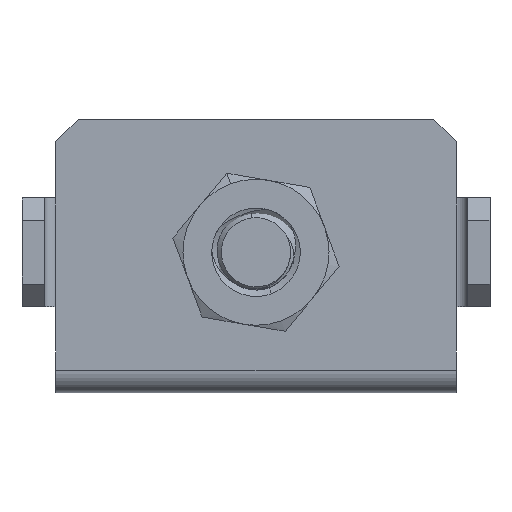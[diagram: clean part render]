
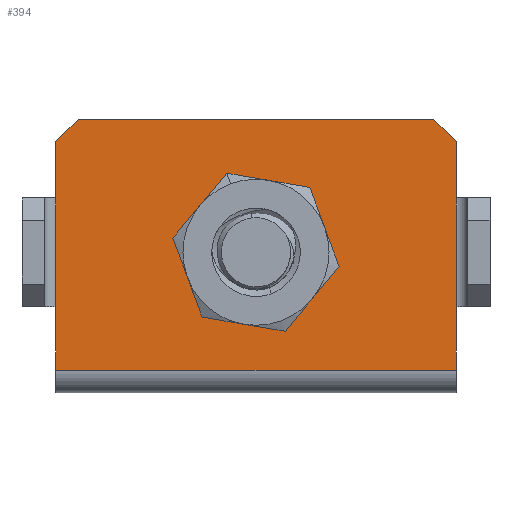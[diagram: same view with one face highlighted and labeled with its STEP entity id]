
A CAD part, front view. The second image highlights one B-rep face of the part: STEP entity #394.
In plain terms, the highlighted planar face has unit normal (0, -1, 0).
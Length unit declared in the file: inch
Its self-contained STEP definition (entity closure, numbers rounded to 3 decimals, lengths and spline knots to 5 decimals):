
#9 = DIRECTION ( 'NONE',  ( 0., 0., 1. ) ) ;
#66 = DIRECTION ( 'NONE',  ( -0.707, 0., -0.707 ) ) ;
#233 = LINE ( 'NONE', #5144, #2742 ) ;
#243 = LINE ( 'NONE', #6497, #7185 ) ;
#394 = ADVANCED_FACE ( 'NONE', ( #6324, #3738 ), #7206, .F. ) ;
#416 = ORIENTED_EDGE ( 'NONE', *, *, #1084, .T. ) ;
#475 = CARTESIAN_POINT ( 'NONE',  ( -0.13688, 0.0043, 0.24738 ) ) ;
#542 = VERTEX_POINT ( 'NONE', #1795 ) ;
#585 = CARTESIAN_POINT ( 'NONE',  ( -1.20688, 0.0043, 0.49452 ) ) ;
#635 = DIRECTION ( 'NONE',  ( 0., 1., 0. ) ) ;
#911 = ORIENTED_EDGE ( 'NONE', *, *, #3704, .T. ) ;
#998 = DIRECTION ( 'NONE',  ( 0., 0., 1. ) ) ;
#1084 = EDGE_CURVE ( 'NONE', #1767, #4985, #6960, .T. ) ;
#1606 = CARTESIAN_POINT ( 'NONE',  ( -0.13688, 0.0043, -0.21119 ) ) ;
#1609 = CARTESIAN_POINT ( 'NONE',  ( -1.14688, 0.0043, 0.55452 ) ) ;
#1636 = VERTEX_POINT ( 'NONE', #2726 ) ;
#1655 = CARTESIAN_POINT ( 'NONE',  ( -0.13688, 0.0043, 0.05452 ) ) ;
#1727 = VECTOR ( 'NONE', #6373, 39.37008 ) ;
#1767 = VERTEX_POINT ( 'NONE', #1609 ) ;
#1792 = ORIENTED_EDGE ( 'NONE', *, *, #2493, .F. ) ;
#1795 = CARTESIAN_POINT ( 'NONE',  ( -0.19688, 0.0043, 0.55452 ) ) ;
#1796 = AXIS2_PLACEMENT_3D ( 'NONE', #5465, #6684, #2536 ) ;
#1829 = EDGE_CURVE ( 'NONE', #1898, #1636, #3613, .T. ) ;
#1859 = CARTESIAN_POINT ( 'NONE',  ( -1.20688, 0.0043, -0.21119 ) ) ;
#1898 = VERTEX_POINT ( 'NONE', #3016 ) ;
#2125 = ORIENTED_EDGE ( 'NONE', *, *, #6482, .T. ) ;
#2319 = VECTOR ( 'NONE', #3455, 39.37008 ) ;
#2329 = CARTESIAN_POINT ( 'NONE',  ( -1.20688, 0.0043, 0.24738 ) ) ;
#2414 = ORIENTED_EDGE ( 'NONE', *, *, #7056, .F. ) ;
#2420 = CARTESIAN_POINT ( 'NONE',  ( -1.20688, 0.0043, 0.49452 ) ) ;
#2426 = VECTOR ( 'NONE', #66, 39.37008 ) ;
#2436 = CARTESIAN_POINT ( 'NONE',  ( -0.67188, 0.0043, 0.19952 ) ) ;
#2493 = EDGE_CURVE ( 'NONE', #4117, #6038, #3887, .T. ) ;
#2513 = DIRECTION ( 'NONE',  ( -1., 0., 0. ) ) ;
#2536 = DIRECTION ( 'NONE',  ( 0., 0., 1. ) ) ;
#2572 = LINE ( 'NONE', #1606, #5896 ) ;
#2698 = EDGE_CURVE ( 'NONE', #2859, #1898, #2572, .T. ) ;
#2726 = CARTESIAN_POINT ( 'NONE',  ( -0.13688, 0.0043, 0.49452 ) ) ;
#2742 = VECTOR ( 'NONE', #3411, 39.37008 ) ;
#2859 = VERTEX_POINT ( 'NONE', #1655 ) ;
#3016 = CARTESIAN_POINT ( 'NONE',  ( -0.13688, 0.0043, 0.34452 ) ) ;
#3055 = ORIENTED_EDGE ( 'NONE', *, *, #5094, .T. ) ;
#3265 = ORIENTED_EDGE ( 'NONE', *, *, #3303, .T. ) ;
#3284 = VECTOR ( 'NONE', #7296, 39.37008 ) ;
#3303 = EDGE_CURVE ( 'NONE', #542, #1767, #3870, .T. ) ;
#3348 = CARTESIAN_POINT ( 'NONE',  ( -0.67188, 0.0043, 0.32452 ) ) ;
#3411 = DIRECTION ( 'NONE',  ( 0., 0., 1. ) ) ;
#3412 = LINE ( 'NONE', #1859, #4427 ) ;
#3455 = DIRECTION ( 'NONE',  ( 0., 0., 1. ) ) ;
#3524 = EDGE_CURVE ( 'NONE', #3825, #4241, #3412, .T. ) ;
#3613 = LINE ( 'NONE', #475, #2319 ) ;
#3643 = LINE ( 'NONE', #4839, #3284 ) ;
#3701 = CARTESIAN_POINT ( 'NONE',  ( -0.13688, 0.0043, -0.11548 ) ) ;
#3704 = EDGE_CURVE ( 'NONE', #4387, #4882, #4693, .T. ) ;
#3738 = FACE_OUTER_BOUND ( 'NONE', #7468, .T. ) ;
#3825 = VERTEX_POINT ( 'NONE', #4436 ) ;
#3870 = LINE ( 'NONE', #5145, #1727 ) ;
#3887 = LINE ( 'NONE', #6023, #5818 ) ;
#3952 = EDGE_CURVE ( 'NONE', #4117, #2859, #243, .T. ) ;
#4117 = VERTEX_POINT ( 'NONE', #3701 ) ;
#4241 = VERTEX_POINT ( 'NONE', #6703 ) ;
#4321 = ORIENTED_EDGE ( 'NONE', *, *, #1829, .T. ) ;
#4387 = VERTEX_POINT ( 'NONE', #3348 ) ;
#4427 = VECTOR ( 'NONE', #6022, 39.37008 ) ;
#4436 = CARTESIAN_POINT ( 'NONE',  ( -1.20688, 0.0043, 0.05452 ) ) ;
#4658 = AXIS2_PLACEMENT_3D ( 'NONE', #2436, #635, #5968 ) ;
#4693 = CIRCLE ( 'NONE', #1796, 0.125 ) ;
#4713 = AXIS2_PLACEMENT_3D ( 'NONE', #7260, #5979, #7232 ) ;
#4839 = CARTESIAN_POINT ( 'NONE',  ( -0.19688, 0.0043, 0.55452 ) ) ;
#4882 = VERTEX_POINT ( 'NONE', #7619 ) ;
#4903 = LINE ( 'NONE', #2329, #5816 ) ;
#4985 = VERTEX_POINT ( 'NONE', #585 ) ;
#5094 = EDGE_CURVE ( 'NONE', #1636, #542, #3643, .T. ) ;
#5144 = CARTESIAN_POINT ( 'NONE',  ( -1.20688, 0.0043, 0.24738 ) ) ;
#5145 = CARTESIAN_POINT ( 'NONE',  ( -0.67188, 0.0043, 0.55452 ) ) ;
#5149 = ORIENTED_EDGE ( 'NONE', *, *, #3952, .T. ) ;
#5369 = ORIENTED_EDGE ( 'NONE', *, *, #3524, .F. ) ;
#5465 = CARTESIAN_POINT ( 'NONE',  ( -0.67188, 0.0043, 0.19952 ) ) ;
#5816 = VECTOR ( 'NONE', #5881, 39.37008 ) ;
#5818 = VECTOR ( 'NONE', #2513, 39.37008 ) ;
#5881 = DIRECTION ( 'NONE',  ( 0., 0., 1. ) ) ;
#5896 = VECTOR ( 'NONE', #998, 39.37008 ) ;
#5968 = DIRECTION ( 'NONE',  ( 0., 0., 1. ) ) ;
#5979 = DIRECTION ( 'NONE',  ( 0., 1., 0. ) ) ;
#6022 = DIRECTION ( 'NONE',  ( 0., 0., 1. ) ) ;
#6023 = CARTESIAN_POINT ( 'NONE',  ( -0.67188, 0.0043, -0.11548 ) ) ;
#6038 = VERTEX_POINT ( 'NONE', #6605 ) ;
#6324 = FACE_BOUND ( 'NONE', #7603, .T. ) ;
#6373 = DIRECTION ( 'NONE',  ( -1., 0., 0. ) ) ;
#6482 = EDGE_CURVE ( 'NONE', #4882, #4387, #7124, .T. ) ;
#6497 = CARTESIAN_POINT ( 'NONE',  ( -0.13688, 0.0043, 0.24738 ) ) ;
#6605 = CARTESIAN_POINT ( 'NONE',  ( -1.20688, 0.0043, -0.11548 ) ) ;
#6684 = DIRECTION ( 'NONE',  ( 0., 1., 0. ) ) ;
#6703 = CARTESIAN_POINT ( 'NONE',  ( -1.20688, 0.0043, 0.34452 ) ) ;
#6960 = LINE ( 'NONE', #2420, #2426 ) ;
#7049 = ORIENTED_EDGE ( 'NONE', *, *, #7610, .F. ) ;
#7056 = EDGE_CURVE ( 'NONE', #6038, #3825, #4903, .T. ) ;
#7124 = CIRCLE ( 'NONE', #4658, 0.125 ) ;
#7185 = VECTOR ( 'NONE', #9, 39.37008 ) ;
#7200 = ORIENTED_EDGE ( 'NONE', *, *, #2698, .T. ) ;
#7206 = PLANE ( 'NONE',  #4713 ) ;
#7232 = DIRECTION ( 'NONE',  ( -1., 0., 0. ) ) ;
#7260 = CARTESIAN_POINT ( 'NONE',  ( -0.67188, 0.0043, 0.24738 ) ) ;
#7296 = DIRECTION ( 'NONE',  ( -0.707, 0., 0.707 ) ) ;
#7468 = EDGE_LOOP ( 'NONE', ( #3265, #416, #7049, #5369, #2414, #1792, #5149, #7200, #4321, #3055 ) ) ;
#7603 = EDGE_LOOP ( 'NONE', ( #2125, #911 ) ) ;
#7610 = EDGE_CURVE ( 'NONE', #4241, #4985, #233, .T. ) ;
#7619 = CARTESIAN_POINT ( 'NONE',  ( -0.67188, 0.0043, 0.07452 ) ) ;
